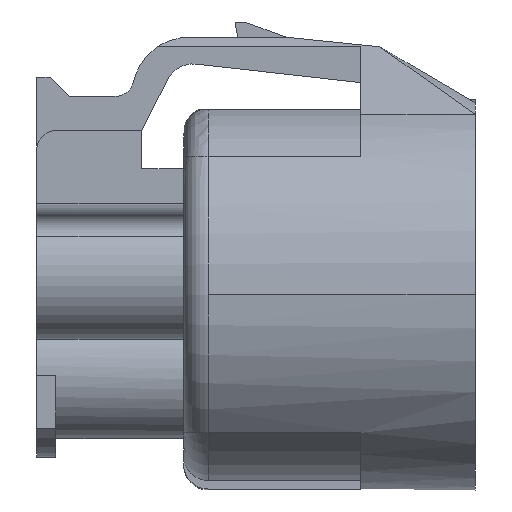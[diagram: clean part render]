
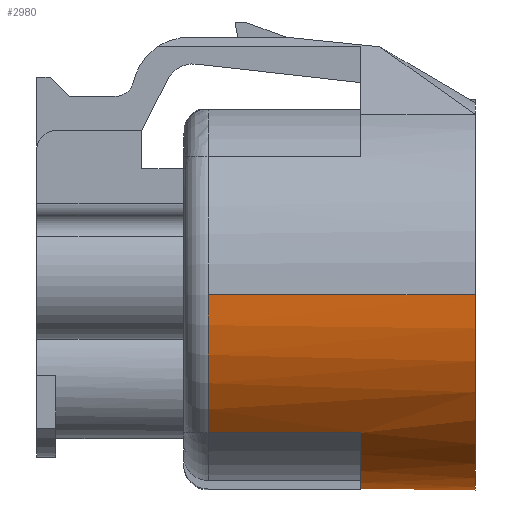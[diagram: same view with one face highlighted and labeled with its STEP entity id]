
A CAD part, front view. The second image highlights one B-rep face of the part: STEP entity #2980.
In plain terms, the highlighted cylindrical face has radius 10.25 mm (diameter 20.5 mm), a partial arc.
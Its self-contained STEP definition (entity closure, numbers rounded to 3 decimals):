
#75=AXIS2_PLACEMENT_3D('Circle Axis2P3D',#73,#74,$) ;
#121=AXIS2_PLACEMENT_3D('Circle Axis2P3D',#119,#120,$) ;
#147=AXIS2_PLACEMENT_3D('Circle Axis2P3D',#145,#146,$) ;
#339=AXIS2_PLACEMENT_3D('Cylinder Axis2P3D',#336,#337,#338) ;
#2724=AXIS2_PLACEMENT_3D('Circle Axis2P3D',#2722,#2723,$) ;
#2845=AXIS2_PLACEMENT_3D('Circle Axis2P3D',#2843,#2844,$) ;
#2963=AXIS2_PLACEMENT_3D('Circle Axis2P3D',#2961,#2962,$) ;
#40=CARTESIAN_POINT('Vertex',(0.,13.25,-0.7)) ;
#70=CARTESIAN_POINT('Vertex',(0.,-7.25,-0.7)) ;
#73=CARTESIAN_POINT('Axis2P3D Location',(0.,3.,-0.7)) ;
#116=CARTESIAN_POINT('Vertex',(-6.,2.,-10.901)) ;
#119=CARTESIAN_POINT('Axis2P3D Location',(-6.,3.,-0.7)) ;
#123=CARTESIAN_POINT('Vertex',(-6.,-4.246,-7.95)) ;
#145=CARTESIAN_POINT('Axis2P3D Location',(-6.,3.,-0.7)) ;
#149=CARTESIAN_POINT('Vertex',(-6.,10.246,-7.95)) ;
#151=CARTESIAN_POINT('Vertex',(-6.,4.,-10.901)) ;
#336=CARTESIAN_POINT('Axis2P3D Location',(-8.26,3.,-0.7)) ;
#2651=CARTESIAN_POINT('Line Origine',(-8.26,13.25,-0.7)) ;
#2655=CARTESIAN_POINT('Vertex',(-14.,13.25,-0.7)) ;
#2693=CARTESIAN_POINT('Vertex',(-14.,10.246,-7.95)) ;
#2698=CARTESIAN_POINT('Line Origine',(-10.,10.246,-7.95)) ;
#2722=CARTESIAN_POINT('Axis2P3D Location',(-14.,3.,-0.7)) ;
#2753=CARTESIAN_POINT('Line Origine',(-10.,2.,-10.901)) ;
#2757=CARTESIAN_POINT('Vertex',(-14.,2.,-10.901)) ;
#2816=CARTESIAN_POINT('Vertex',(-14.,4.,-10.901)) ;
#2824=CARTESIAN_POINT('Line Origine',(-10.,4.,-10.901)) ;
#2843=CARTESIAN_POINT('Axis2P3D Location',(-14.,3.,-0.7)) ;
#2900=CARTESIAN_POINT('Line Origine',(-8.26,-7.25,-0.7)) ;
#2904=CARTESIAN_POINT('Vertex',(-14.,-7.25,-0.7)) ;
#2939=CARTESIAN_POINT('Vertex',(-14.,-4.246,-7.95)) ;
#2947=CARTESIAN_POINT('Line Origine',(-10.,-4.246,-7.95)) ;
#2961=CARTESIAN_POINT('Axis2P3D Location',(-14.,3.,-0.7)) ;
#74=DIRECTION('Axis2P3D Direction',(1.,0.,0.)) ;
#120=DIRECTION('Axis2P3D Direction',(-1.,0.,0.)) ;
#146=DIRECTION('Axis2P3D Direction',(-1.,0.,0.)) ;
#337=DIRECTION('Axis2P3D Direction',(1.,0.,0.)) ;
#338=DIRECTION('Axis2P3D XDirection',(0.,1.,0.)) ;
#2652=DIRECTION('Vector Direction',(1.,0.,0.)) ;
#2699=DIRECTION('Vector Direction',(1.,0.,0.)) ;
#2723=DIRECTION('Axis2P3D Direction',(1.,-0.,0.)) ;
#2754=DIRECTION('Vector Direction',(1.,0.,0.)) ;
#2825=DIRECTION('Vector Direction',(1.,0.,0.)) ;
#2844=DIRECTION('Axis2P3D Direction',(1.,0.,-0.)) ;
#2901=DIRECTION('Vector Direction',(1.,0.,0.)) ;
#2948=DIRECTION('Vector Direction',(1.,0.,0.)) ;
#2962=DIRECTION('Axis2P3D Direction',(1.,0.,0.)) ;
#2653=VECTOR('Line Direction',#2652,1.) ;
#2700=VECTOR('Line Direction',#2699,1.) ;
#2755=VECTOR('Line Direction',#2754,1.) ;
#2826=VECTOR('Line Direction',#2825,1.) ;
#2902=VECTOR('Line Direction',#2901,1.) ;
#2949=VECTOR('Line Direction',#2948,1.) ;
#2967=ORIENTED_EDGE('',*,*,#2951,.T.) ;
#2968=ORIENTED_EDGE('',*,*,#125,.F.) ;
#2969=ORIENTED_EDGE('',*,*,#2759,.F.) ;
#2970=ORIENTED_EDGE('',*,*,#2847,.T.) ;
#2971=ORIENTED_EDGE('',*,*,#2828,.F.) ;
#2972=ORIENTED_EDGE('',*,*,#153,.F.) ;
#2973=ORIENTED_EDGE('',*,*,#2702,.T.) ;
#2974=ORIENTED_EDGE('',*,*,#2726,.T.) ;
#2975=ORIENTED_EDGE('',*,*,#2657,.F.) ;
#2976=ORIENTED_EDGE('',*,*,#77,.F.) ;
#2977=ORIENTED_EDGE('',*,*,#2906,.T.) ;
#2978=ORIENTED_EDGE('',*,*,#2965,.T.) ;
#2980=ADVANCED_FACE('\X2\FF8AFF9FFF70FF82\X0\ \X2\FF8EFF9EFF83FF9EFF68FF70\X0\',(#2979),#340,.T.) ;
#76=CIRCLE('generated circle',#75,10.25) ;
#122=CIRCLE('generated circle',#121,10.25) ;
#148=CIRCLE('generated circle',#147,10.25) ;
#2725=CIRCLE('generated circle',#2724,10.25) ;
#2846=CIRCLE('generated circle',#2845,10.25) ;
#2964=CIRCLE('generated circle',#2963,10.25) ;
#340=CYLINDRICAL_SURFACE('generated cylinder',#339,10.25) ;
#77=EDGE_CURVE('',#71,#41,#76,.T.) ;
#125=EDGE_CURVE('',#117,#124,#122,.T.) ;
#153=EDGE_CURVE('',#150,#152,#148,.T.) ;
#2657=EDGE_CURVE('',#41,#2656,#2654,.F.) ;
#2702=EDGE_CURVE('',#150,#2694,#2701,.F.) ;
#2726=EDGE_CURVE('',#2694,#2656,#2725,.T.) ;
#2759=EDGE_CURVE('',#2758,#117,#2756,.T.) ;
#2828=EDGE_CURVE('',#152,#2817,#2827,.F.) ;
#2847=EDGE_CURVE('',#2758,#2817,#2846,.T.) ;
#2906=EDGE_CURVE('',#71,#2905,#2903,.F.) ;
#2951=EDGE_CURVE('',#2940,#124,#2950,.T.) ;
#2965=EDGE_CURVE('',#2905,#2940,#2964,.T.) ;
#2966=EDGE_LOOP('',(#2967,#2968,#2969,#2970,#2971,#2972,#2973,#2974,#2975,#2976,#2977,#2978)) ;
#2979=FACE_OUTER_BOUND('',#2966,.T.) ;
#2654=LINE('Line',#2651,#2653) ;
#2701=LINE('Line',#2698,#2700) ;
#2756=LINE('Line',#2753,#2755) ;
#2827=LINE('Line',#2824,#2826) ;
#2903=LINE('Line',#2900,#2902) ;
#2950=LINE('Line',#2947,#2949) ;
#41=VERTEX_POINT('',#40) ;
#71=VERTEX_POINT('',#70) ;
#117=VERTEX_POINT('',#116) ;
#124=VERTEX_POINT('',#123) ;
#150=VERTEX_POINT('',#149) ;
#152=VERTEX_POINT('',#151) ;
#2656=VERTEX_POINT('',#2655) ;
#2694=VERTEX_POINT('',#2693) ;
#2758=VERTEX_POINT('',#2757) ;
#2817=VERTEX_POINT('',#2816) ;
#2905=VERTEX_POINT('',#2904) ;
#2940=VERTEX_POINT('',#2939) ;
